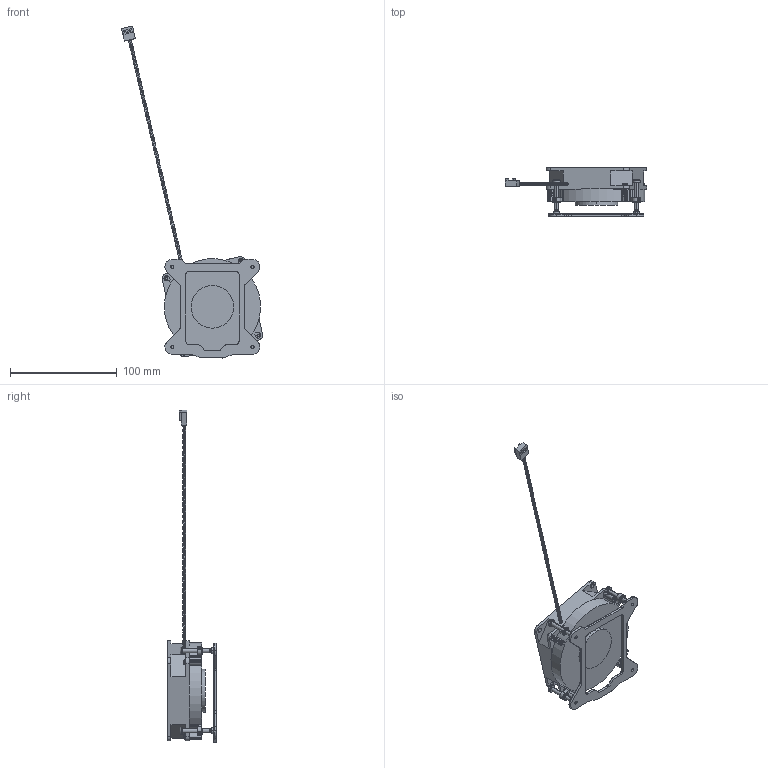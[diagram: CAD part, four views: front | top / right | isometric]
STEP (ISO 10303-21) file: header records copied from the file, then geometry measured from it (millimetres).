
FILE_DESCRIPTION((''),'2;1');
FILE_NAME('RG3129-35B-002_ME_ASM','2022-11-03T',('User'),(''),'PRO/ENGINEER BY PARAMETRIC TECHNOLOGY CORPORATION, 2017170','PRO/ENGINEER BY PARAMETRIC TECHNOLOGY CORPORATION, 2017170','');
FILE_SCHEMA(('CONFIG_CONTROL_DESIGN'));
Products named in the file (17): D90X15_A_C___SINK__3; CU-PIN_15_1; D90_15H_AC_ASSY_ASM_1_ASM; DEAKTOP_SCREW_D7_30_8L_1; E-RING_1; DESKTOP_SCREW_ASSY_ASM_1_ASM; DESKTOP_D90_15H_AC_ASSY_ASM_1_ASM; AD208020HBPA04_3; 4P-PLUGZ__VORTEX__2; FAN_SCREW_T3X10MM_1; LABEL_R30_1_1; AD208020HBPA04_ASM_1_ASM; 850-BP1156_1; MYLER_1; 850-BP1156_ASSY__ASM_1_ASM; RG3129-35B_ASM_1_ASM; RG3129-35B-002_ME_ASM
Assembly tree (22 placements, depth 5):
  RG3129-35B-002_ME_ASM
    RG3129-35B_ASM_1_ASM
      DESKTOP_D90_15H_AC_ASSY_ASM_1_ASM
        D90_15H_AC_ASSY_ASM_1_ASM
          D90X15_A_C___SINK__3
          CU-PIN_15_1
        DESKTOP_SCREW_ASSY_ASM_1_ASM  x4
          DEAKTOP_SCREW_D7_30_8L_1
          E-RING_1
      AD208020HBPA04_ASM_1_ASM
        AD208020HBPA04_3
        4P-PLUGZ__VORTEX__2
        FAN_SCREW_T3X10MM_1  x4
        LABEL_R30_1_1
      850-BP1156_ASSY__ASM_1_ASM
        850-BP1156_1
        MYLER_1
Bounding box: 132.18 x 45.8 x 310.86 mm (x, y, z)
Volume: 202409.2 mm3; surface area: 72216.4 mm2
Topology: 19 solids, 19 shells, 2383 faces, 6337 edges, 4071 vertices
Faces by surface type: plane 1296, bspline 561, cylinder 415, extrusion 95, torus 16
Entity records: 98589 total; most frequent: CARTESIAN_POINT 63703, ORIENTED_EDGE 8120, DIRECTION 5341, EDGE_CURVE 4060, VERTEX_POINT 2556, VECTOR 2187, LINE 2092, EDGE_LOOP 1692
